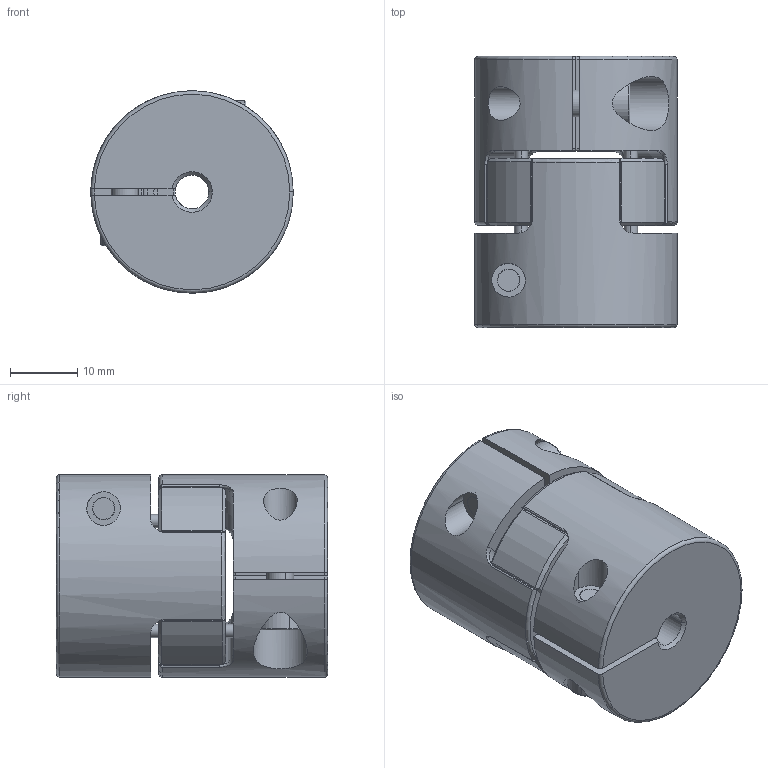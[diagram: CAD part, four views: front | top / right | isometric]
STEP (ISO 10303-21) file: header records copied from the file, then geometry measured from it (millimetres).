
FILE_DESCRIPTION (( 'STEP AP203' ), '1' );
FILE_NAME ('DXA30X40-5-5.STEP', '2023-10-18T03:39:32', ( '' ), ( '' ), 'SwSTEP 2.0', 'SolidWorks 2020', '' );
FILE_SCHEMA (( 'CONFIG_CONTROL_DESIGN' ));
Length unit declared in the file: millimetre
Products named in the file (5): 30繩豪菜; 30X40標踡倰繩豪釱; DXA30X40-5-5; socket head cap screw_iso_ISO 4762 M4 x 12 - 12C; 30X40標踡倰繩豪釱1
Assembly tree (5 placements, depth 2):
  DXA30X40-5-5
    30繩豪菜
    30X40標踡倰繩豪釱
    30X40標踡倰繩豪釱1
    socket head cap screw_iso_ISO 4762 M4 x 12 - 12C  x2
Bounding box: 30 x 40.2 x 30 mm (x, y, z)
Volume: 24743.2 mm3; surface area: 11175.1 mm2
Topology: 5 solids, 5 shells, 281 faces, 675 edges, 396 vertices
Faces by surface type: cylinder 109, cone 58, torus 58, plane 56
Entity records: 8317 total; most frequent: CARTESIAN_POINT 1838, DIRECTION 1356, ORIENTED_EDGE 1190, EDGE_CURVE 595, AXIS2_PLACEMENT_3D 583, VERTEX_POINT 363, CIRCLE 321, EDGE_LOOP 278
